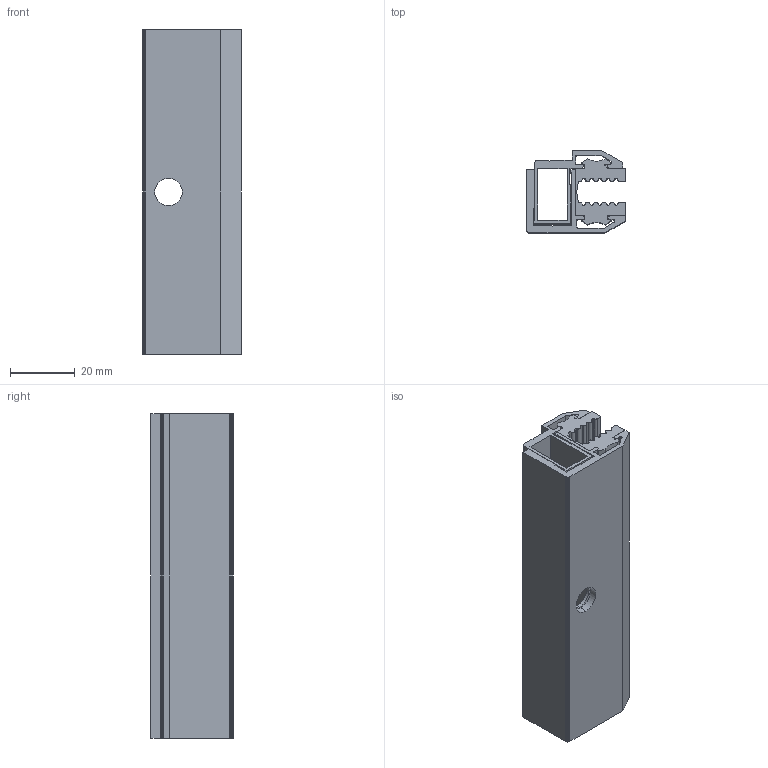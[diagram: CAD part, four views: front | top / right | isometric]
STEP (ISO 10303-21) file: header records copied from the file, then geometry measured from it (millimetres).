
FILE_DESCRIPTION (( 'STEP AP203' ), '1' );
FILE_NAME ('084.106.165.STEP', '2013-01-23T13:19:23', ( 'Alusic' ), ( 'Alusic' ), 'SwSTEP 2.0', 'SolidWorks 2011', '' );
FILE_SCHEMA (( 'CONFIG_CONTROL_DESIGN' ));
Length unit declared in the file: millimetre
Products named in the file (4): 084.106.165; 084.106.147; 084.106.165-2; 084.106.165-1
Assembly tree (4 placements, depth 2):
  084.106.165
    084.106.147  x2
    084.106.165-2
    084.106.165-1
Bounding box: 30.51 x 25.41 x 100 mm (x, y, z)
Volume: 39296.1 mm3; surface area: 42745 mm2
Topology: 4 solids, 4 shells, 344 faces, 1012 edges, 674 vertices
Faces by surface type: plane 290, cylinder 54
Entity records: 10120 total; most frequent: CARTESIAN_POINT 1771, ORIENTED_EDGE 1736, DIRECTION 1524, EDGE_CURVE 868, VECTOR 798, LINE 798, VERTEX_POINT 578, AXIS2_PLACEMENT_3D 363
